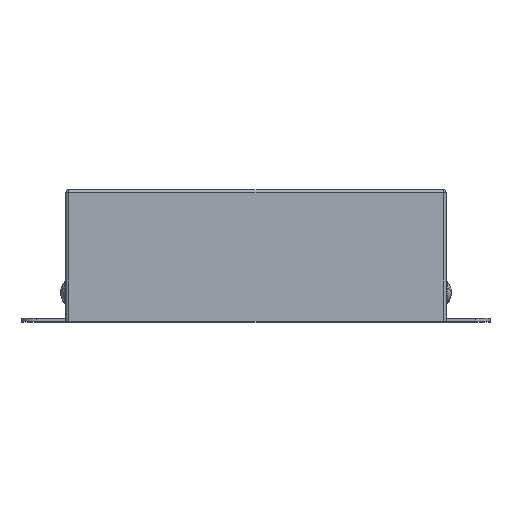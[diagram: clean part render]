
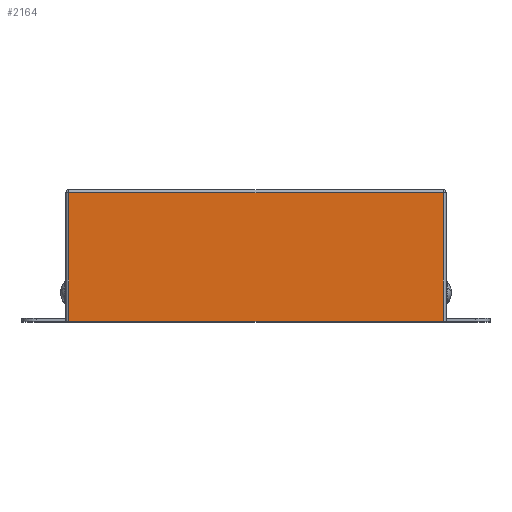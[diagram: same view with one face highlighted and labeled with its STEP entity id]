
A CAD part, top view. The second image highlights one B-rep face of the part: STEP entity #2164.
In plain terms, the highlighted planar face has unit normal (0, 0, 1).
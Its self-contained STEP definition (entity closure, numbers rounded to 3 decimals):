
#20 = FACE_OUTER_BOUND ( 'NONE', #2979, .T. ) ;
#97 = CARTESIAN_POINT ( 'NONE',  ( -64., 0., 115. ) ) ;
#215 = EDGE_CURVE ( 'NONE', #2341, #1480, #716, .T. ) ;
#312 = CARTESIAN_POINT ( 'NONE',  ( -64., 45., 115. ) ) ;
#381 = DIRECTION ( 'NONE',  ( -1., 0., 0. ) ) ;
#489 = CARTESIAN_POINT ( 'NONE',  ( 64., 0., 115. ) ) ;
#550 = CARTESIAN_POINT ( 'NONE',  ( -65., 0., 115. ) ) ;
#716 = LINE ( 'NONE', #2152, #2310 ) ;
#838 = ORIENTED_EDGE ( 'NONE', *, *, #215, .T. ) ;
#972 = VECTOR ( 'NONE', #2258, 1000. ) ;
#1027 = EDGE_CURVE ( 'NONE', #1480, #3642, #3118, .T. ) ;
#1230 = DIRECTION ( 'NONE',  ( 0., 0., 1. ) ) ;
#1246 = VECTOR ( 'NONE', #3536, 1000. ) ;
#1462 = DIRECTION ( 'NONE',  ( 1., 0., 0. ) ) ;
#1480 = VERTEX_POINT ( 'NONE', #3508 ) ;
#1584 = ORIENTED_EDGE ( 'NONE', *, *, #2473, .F. ) ;
#1631 = DIRECTION ( 'NONE',  ( -1., 0., 0. ) ) ;
#1783 = AXIS2_PLACEMENT_3D ( 'NONE', #2059, #1230, #1462 ) ;
#1965 = LINE ( 'NONE', #550, #3469 ) ;
#2059 = CARTESIAN_POINT ( 'NONE',  ( -65., 45., 115. ) ) ;
#2092 = CARTESIAN_POINT ( 'NONE',  ( 64., 45., 115. ) ) ;
#2152 = CARTESIAN_POINT ( 'NONE',  ( -65., 44., 115. ) ) ;
#2164 = ADVANCED_FACE ( 'NONE', ( #20 ), #2613, .T. ) ;
#2258 = DIRECTION ( 'NONE',  ( 0., -1., 0. ) ) ;
#2310 = VECTOR ( 'NONE', #381, 1000. ) ;
#2341 = VERTEX_POINT ( 'NONE', #2992 ) ;
#2398 = ORIENTED_EDGE ( 'NONE', *, *, #2765, .T. ) ;
#2473 = EDGE_CURVE ( 'NONE', #2904, #3642, #1965, .T. ) ;
#2613 = PLANE ( 'NONE',  #1783 ) ;
#2647 = LINE ( 'NONE', #2092, #1246 ) ;
#2765 = EDGE_CURVE ( 'NONE', #2904, #2341, #2647, .T. ) ;
#2904 = VERTEX_POINT ( 'NONE', #489 ) ;
#2979 = EDGE_LOOP ( 'NONE', ( #1584, #2398, #838, #3516 ) ) ;
#2992 = CARTESIAN_POINT ( 'NONE',  ( 64., 44., 115. ) ) ;
#3118 = LINE ( 'NONE', #312, #972 ) ;
#3469 = VECTOR ( 'NONE', #1631, 1000. ) ;
#3508 = CARTESIAN_POINT ( 'NONE',  ( -64., 44., 115. ) ) ;
#3516 = ORIENTED_EDGE ( 'NONE', *, *, #1027, .T. ) ;
#3536 = DIRECTION ( 'NONE',  ( 0., 1., 0. ) ) ;
#3642 = VERTEX_POINT ( 'NONE', #97 ) ;
